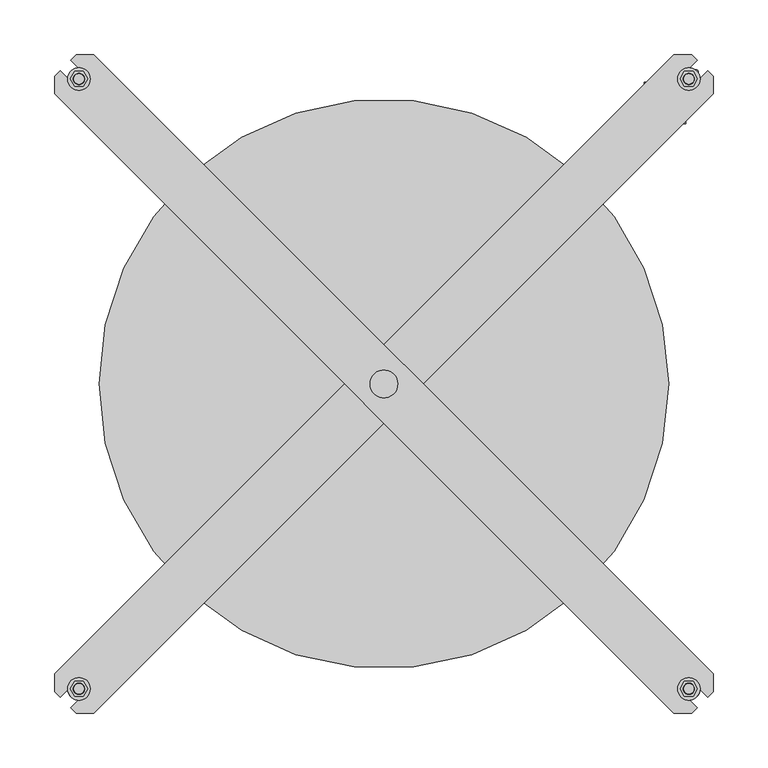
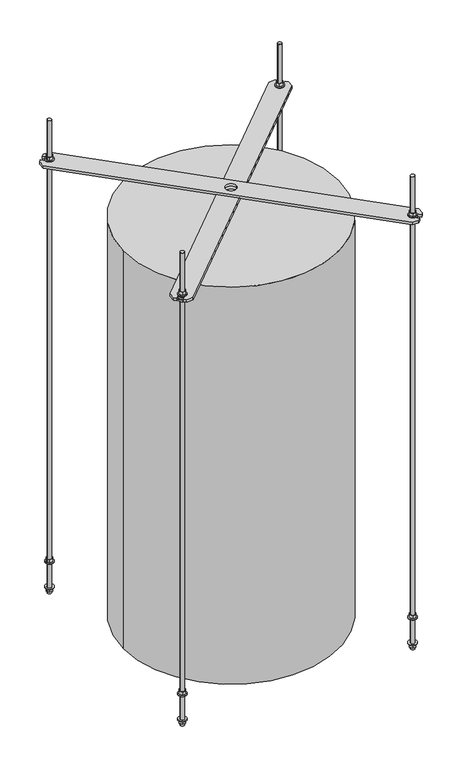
"""IFC4 building model written with IfcOpenShell, lengths in millimetres: proxy geometry."""

from ifc_helpers import new_model, si_unit, point, frame, frame_2d, origin, origin_2d, place, context, project, spatial, polyline, circle_curve, trimmed, segment, composite_curve, outline, extrude, source, transform, mapped, element, save
from ifc_brep_helpers import plane_surface, cylinder_surface, revolved_surface, advanced_brep


def generic_models_c016bd41(model_context):
    return source(origin(), model_context, "Body", "SolidModel", [
        extrude(outline(composite_curve([segment(trimmed(circle_curve(frame_2d((278.914225, 278.914225)), 10.31875), [point((268.595475, 278.914225))], [point((289.232975, 278.914225))], False, "CARTESIAN"), True, "CONTINUOUS"), segment(trimmed(circle_curve(frame_2d((278.914225, 278.914225)), 10.31875), [point((289.232975, 278.914225))], [point((268.595475, 278.914225))], False, "CARTESIAN"), True, "CONTINUOUS")], self_intersect=False), holes=[composite_curve([segment(trimmed(circle_curve(frame_2d((278.914225, 278.914225)), 5.159375), [point((273.75485, 278.914225))], [point((284.0736, 278.914225))], True, "CARTESIAN"), True, "CONTINUOUS"), segment(trimmed(circle_curve(frame_2d((278.914225, 278.914225)), 5.159375), [point((284.0736, 278.914225))], [point((273.75485, 278.914225))], True, "CARTESIAN"), True, "CONTINUOUS")], self_intersect=False)]), frame((0.0, 0.0, 1085.85), z_axis=(0.0, 0.0, 1.0), x_axis=(1.0, 0.0, 0.0)), (0.0, 0.0, 1.0), 1.5875),
        extrude(outline(polyline([(274.945475, 285.7883016), (282.882975, 285.7883016), (286.851725, 278.914225), (282.882975, 272.0401484), (274.945475, 272.0401484), (270.976725, 278.914225), (274.945475, 285.7883016)]), holes=[composite_curve([segment(trimmed(circle_curve(frame_2d((278.914225, 278.914225)), 5.159375), [point((273.75485, 278.914225))], [point((284.0736, 278.914225))], True, "CARTESIAN"), True, "CONTINUOUS"), segment(trimmed(circle_curve(frame_2d((278.914225, 278.914225)), 5.159375), [point((284.0736, 278.914225))], [point((273.75485, 278.914225))], True, "CARTESIAN"), True, "CONTINUOUS")], self_intersect=False)]), frame((0.0, 0.0, 1087.4375), z_axis=(0.0, 0.0, 1.0), x_axis=(1.0, 0.0, 0.0)), (0.0, 0.0, 1.0), 7.9375),
        extrude(outline(composite_curve([segment(trimmed(circle_curve(frame_2d((-278.914225, 278.914225)), 10.31875), [point((-289.232975, 278.914225))], [point((-268.595475, 278.914225))], False, "CARTESIAN"), True, "CONTINUOUS"), segment(trimmed(circle_curve(frame_2d((-278.914225, 278.914225)), 10.31875), [point((-268.595475, 278.914225))], [point((-289.232975, 278.914225))], False, "CARTESIAN"), True, "CONTINUOUS")], self_intersect=False), holes=[composite_curve([segment(trimmed(circle_curve(frame_2d((-278.914225, 278.914225)), 5.159375), [point((-284.0736, 278.914225))], [point((-273.75485, 278.914225))], True, "CARTESIAN"), True, "CONTINUOUS"), segment(trimmed(circle_curve(frame_2d((-278.914225, 278.914225)), 5.159375), [point((-273.75485, 278.914225))], [point((-284.0736, 278.914225))], True, "CARTESIAN"), True, "CONTINUOUS")], self_intersect=False)]), frame((0.0, 0.0, 1092.2), z_axis=(0.0, 0.0, 1.0), x_axis=(1.0, 0.0, 0.0)), (0.0, 0.0, 1.0), 1.5875),
        extrude(outline(polyline([(-282.882975, 285.7883016), (-274.945475, 285.7883016), (-270.976725, 278.914225), (-274.945475, 272.0401484), (-282.882975, 272.0401484), (-286.851725, 278.914225), (-282.882975, 285.7883016)]), holes=[composite_curve([segment(trimmed(circle_curve(frame_2d((-278.914225, 278.914225)), 5.159375), [point((-284.0736, 278.914225))], [point((-273.75485, 278.914225))], True, "CARTESIAN"), True, "CONTINUOUS"), segment(trimmed(circle_curve(frame_2d((-278.914225, 278.914225)), 5.159375), [point((-273.75485, 278.914225))], [point((-284.0736, 278.914225))], True, "CARTESIAN"), True, "CONTINUOUS")], self_intersect=False)]), frame((0.0, 0.0, 1093.7875), z_axis=(0.0, 0.0, 1.0), x_axis=(1.0, 0.0, 0.0)), (0.0, 0.0, 1.0), 7.9375),
        extrude(outline(composite_curve([segment(trimmed(circle_curve(frame_2d((278.914225, 278.914225)), 10.31875), [point((268.595475, 278.914225))], [point((289.232975, 278.914225))], False, "CARTESIAN"), True, "CONTINUOUS"), segment(trimmed(circle_curve(frame_2d((278.914225, 278.914225)), 10.31875), [point((289.232975, 278.914225))], [point((268.595475, 278.914225))], False, "CARTESIAN"), True, "CONTINUOUS")], self_intersect=False), holes=[composite_curve([segment(trimmed(circle_curve(frame_2d((278.914225, 278.914225)), 5.159375), [point((273.75485, 278.914225))], [point((284.0736, 278.914225))], True, "CARTESIAN"), True, "CONTINUOUS"), segment(trimmed(circle_curve(frame_2d((278.914225, 278.914225)), 5.159375), [point((284.0736, 278.914225))], [point((273.75485, 278.914225))], True, "CARTESIAN"), True, "CONTINUOUS")], self_intersect=False)]), frame((0.0, 0.0, 1077.9125), z_axis=(0.0, 0.0, 1.0), x_axis=(1.0, 0.0, 0.0)), (0.0, 0.0, 1.0), 1.5875),
        extrude(outline(polyline([(274.945475, 285.7883016), (282.882975, 285.7883016), (286.851725, 278.914225), (282.882975, 272.0401484), (274.945475, 272.0401484), (270.976725, 278.914225), (274.945475, 285.7883016)]), holes=[composite_curve([segment(trimmed(circle_curve(frame_2d((278.914225, 278.914225)), 5.159375), [point((273.75485, 278.914225))], [point((284.0736, 278.914225))], True, "CARTESIAN"), True, "CONTINUOUS"), segment(trimmed(circle_curve(frame_2d((278.914225, 278.914225)), 5.159375), [point((284.0736, 278.914225))], [point((273.75485, 278.914225))], True, "CARTESIAN"), True, "CONTINUOUS")], self_intersect=False)]), frame((0.0, 0.0, 1069.975), z_axis=(0.0, 0.0, 1.0), x_axis=(1.0, 0.0, 0.0)), (0.0, 0.0, 1.0), 7.9375),
        extrude(outline(composite_curve([segment(trimmed(circle_curve(frame_2d((-278.914225, 278.914225)), 10.31875), [point((-289.232975, 278.914225))], [point((-268.595475, 278.914225))], False, "CARTESIAN"), True, "CONTINUOUS"), segment(trimmed(circle_curve(frame_2d((-278.914225, 278.914225)), 10.31875), [point((-268.595475, 278.914225))], [point((-289.232975, 278.914225))], False, "CARTESIAN"), True, "CONTINUOUS")], self_intersect=False), holes=[composite_curve([segment(trimmed(circle_curve(frame_2d((-278.914225, 278.914225)), 5.159375), [point((-284.0736, 278.914225))], [point((-273.75485, 278.914225))], True, "CARTESIAN"), True, "CONTINUOUS"), segment(trimmed(circle_curve(frame_2d((-278.914225, 278.914225)), 5.159375), [point((-273.75485, 278.914225))], [point((-284.0736, 278.914225))], True, "CARTESIAN"), True, "CONTINUOUS")], self_intersect=False)]), frame((0.0, 0.0, 1084.2625), z_axis=(0.0, 0.0, 1.0), x_axis=(1.0, 0.0, 0.0)), (0.0, 0.0, 1.0), 1.5875),
        extrude(outline(polyline([(-282.882975, 285.7883016), (-274.945475, 285.7883016), (-270.976725, 278.914225), (-274.945475, 272.0401484), (-282.882975, 272.0401484), (-286.851725, 278.914225), (-282.882975, 285.7883016)]), holes=[composite_curve([segment(trimmed(circle_curve(frame_2d((-278.914225, 278.914225)), 5.159375), [point((-284.0736, 278.914225))], [point((-273.75485, 278.914225))], True, "CARTESIAN"), True, "CONTINUOUS"), segment(trimmed(circle_curve(frame_2d((-278.914225, 278.914225)), 5.159375), [point((-273.75485, 278.914225))], [point((-284.0736, 278.914225))], True, "CARTESIAN"), True, "CONTINUOUS")], self_intersect=False)]), frame((0.0, 0.0, 1076.325), z_axis=(0.0, 0.0, 1.0), x_axis=(1.0, 0.0, 0.0)), (0.0, 0.0, 1.0), 7.9375),
        extrude(outline(composite_curve([segment(trimmed(circle_curve(frame_2d((278.914225, -278.914225)), 10.31875), [point((268.595475, -278.914225))], [point((289.232975, -278.914225))], False, "CARTESIAN"), True, "CONTINUOUS"), segment(trimmed(circle_curve(frame_2d((278.914225, -278.914225)), 10.31875), [point((289.232975, -278.914225))], [point((268.595475, -278.914225))], False, "CARTESIAN"), True, "CONTINUOUS")], self_intersect=False), holes=[composite_curve([segment(trimmed(circle_curve(frame_2d((278.914225, -278.914225)), 5.159375), [point((273.75485, -278.914225))], [point((284.0736, -278.914225))], True, "CARTESIAN"), True, "CONTINUOUS"), segment(trimmed(circle_curve(frame_2d((278.914225, -278.914225)), 5.159375), [point((284.0736, -278.914225))], [point((273.75485, -278.914225))], True, "CARTESIAN"), True, "CONTINUOUS")], self_intersect=False)]), frame((0.0, 0.0, 1084.2625), z_axis=(0.0, 0.0, 1.0), x_axis=(1.0, 0.0, 0.0)), (0.0, 0.0, 1.0), 1.5875),
        extrude(outline(polyline([(274.945475, -272.0401484), (282.882975, -272.0401484), (286.851725, -278.914225), (282.882975, -285.7883016), (274.945475, -285.7883016), (270.976725, -278.914225), (274.945475, -272.0401484)]), holes=[composite_curve([segment(trimmed(circle_curve(frame_2d((278.914225, -278.914225)), 5.159375), [point((273.75485, -278.914225))], [point((284.0736, -278.914225))], True, "CARTESIAN"), True, "CONTINUOUS"), segment(trimmed(circle_curve(frame_2d((278.914225, -278.914225)), 5.159375), [point((284.0736, -278.914225))], [point((273.75485, -278.914225))], True, "CARTESIAN"), True, "CONTINUOUS")], self_intersect=False)]), frame((0.0, 0.0, 1076.325), z_axis=(0.0, 0.0, 1.0), x_axis=(1.0, 0.0, 0.0)), (0.0, 0.0, 1.0), 7.9375),
        extrude(outline(composite_curve([segment(trimmed(circle_curve(frame_2d((-278.914225, -278.914225)), 10.31875), [point((-289.232975, -278.914225))], [point((-268.595475, -278.914225))], False, "CARTESIAN"), True, "CONTINUOUS"), segment(trimmed(circle_curve(frame_2d((-278.914225, -278.914225)), 10.31875), [point((-268.595475, -278.914225))], [point((-289.232975, -278.914225))], False, "CARTESIAN"), True, "CONTINUOUS")], self_intersect=False), holes=[composite_curve([segment(trimmed(circle_curve(frame_2d((-278.914225, -278.914225)), 5.159375), [point((-284.0736, -278.914225))], [point((-273.75485, -278.914225))], True, "CARTESIAN"), True, "CONTINUOUS"), segment(trimmed(circle_curve(frame_2d((-278.914225, -278.914225)), 5.159375), [point((-273.75485, -278.914225))], [point((-284.0736, -278.914225))], True, "CARTESIAN"), True, "CONTINUOUS")], self_intersect=False)]), frame((0.0, 0.0, 1077.9125), z_axis=(0.0, 0.0, 1.0), x_axis=(1.0, 0.0, 0.0)), (0.0, 0.0, 1.0), 1.5875),
        extrude(outline(polyline([(-282.882975, -272.0401484), (-274.945475, -272.0401484), (-270.976725, -278.914225), (-274.945475, -285.7883016), (-282.882975, -285.7883016), (-286.851725, -278.914225), (-282.882975, -272.0401484)]), holes=[composite_curve([segment(trimmed(circle_curve(frame_2d((-278.914225, -278.914225)), 5.159375), [point((-284.0736, -278.914225))], [point((-273.75485, -278.914225))], True, "CARTESIAN"), True, "CONTINUOUS"), segment(trimmed(circle_curve(frame_2d((-278.914225, -278.914225)), 5.159375), [point((-273.75485, -278.914225))], [point((-284.0736, -278.914225))], True, "CARTESIAN"), True, "CONTINUOUS")], self_intersect=False)]), frame((0.0, 0.0, 1069.975), z_axis=(0.0, 0.0, 1.0), x_axis=(1.0, 0.0, 0.0)), (0.0, 0.0, 1.0), 7.9375),
        extrude(outline(composite_curve([segment(trimmed(circle_curve(frame_2d((278.914225, -278.914225)), 10.31875), [point((268.595475, -278.914225))], [point((289.232975, -278.914225))], False, "CARTESIAN"), True, "CONTINUOUS"), segment(trimmed(circle_curve(frame_2d((278.914225, -278.914225)), 10.31875), [point((289.232975, -278.914225))], [point((268.595475, -278.914225))], False, "CARTESIAN"), True, "CONTINUOUS")], self_intersect=False), holes=[composite_curve([segment(trimmed(circle_curve(frame_2d((278.914225, -278.914225)), 5.159375), [point((273.75485, -278.914225))], [point((284.0736, -278.914225))], True, "CARTESIAN"), True, "CONTINUOUS"), segment(trimmed(circle_curve(frame_2d((278.914225, -278.914225)), 5.159375), [point((284.0736, -278.914225))], [point((273.75485, -278.914225))], True, "CARTESIAN"), True, "CONTINUOUS")], self_intersect=False)]), frame((0.0, 0.0, 1092.2), z_axis=(0.0, 0.0, 1.0), x_axis=(1.0, 0.0, 0.0)), (0.0, 0.0, 1.0), 1.5875),
        extrude(outline(polyline([(274.945475, -272.0401484), (282.882975, -272.0401484), (286.851725, -278.914225), (282.882975, -285.7883016), (274.945475, -285.7883016), (270.976725, -278.914225), (274.945475, -272.0401484)]), holes=[composite_curve([segment(trimmed(circle_curve(frame_2d((278.914225, -278.914225)), 5.159375), [point((273.75485, -278.914225))], [point((284.0736, -278.914225))], True, "CARTESIAN"), True, "CONTINUOUS"), segment(trimmed(circle_curve(frame_2d((278.914225, -278.914225)), 5.159375), [point((284.0736, -278.914225))], [point((273.75485, -278.914225))], True, "CARTESIAN"), True, "CONTINUOUS")], self_intersect=False)]), frame((0.0, 0.0, 1093.7875), z_axis=(0.0, 0.0, 1.0), x_axis=(1.0, 0.0, 0.0)), (0.0, 0.0, 1.0), 7.9375),
        extrude(outline(composite_curve([segment(trimmed(circle_curve(frame_2d((-278.914225, -278.914225)), 10.31875), [point((-289.232975, -278.914225))], [point((-268.595475, -278.914225))], False, "CARTESIAN"), True, "CONTINUOUS"), segment(trimmed(circle_curve(frame_2d((-278.914225, -278.914225)), 10.31875), [point((-268.595475, -278.914225))], [point((-289.232975, -278.914225))], False, "CARTESIAN"), True, "CONTINUOUS")], self_intersect=False), holes=[composite_curve([segment(trimmed(circle_curve(frame_2d((-278.914225, -278.914225)), 5.159375), [point((-284.0736, -278.914225))], [point((-273.75485, -278.914225))], True, "CARTESIAN"), True, "CONTINUOUS"), segment(trimmed(circle_curve(frame_2d((-278.914225, -278.914225)), 5.159375), [point((-273.75485, -278.914225))], [point((-284.0736, -278.914225))], True, "CARTESIAN"), True, "CONTINUOUS")], self_intersect=False)]), frame((0.0, 0.0, 1085.85), z_axis=(0.0, 0.0, 1.0), x_axis=(1.0, 0.0, 0.0)), (0.0, 0.0, 1.0), 1.5875),
        extrude(outline(polyline([(-282.882975, -272.0401484), (-274.945475, -272.0401484), (-270.976725, -278.914225), (-274.945475, -285.7883016), (-282.882975, -285.7883016), (-286.851725, -278.914225), (-282.882975, -272.0401484)]), holes=[composite_curve([segment(trimmed(circle_curve(frame_2d((-278.914225, -278.914225)), 5.159375), [point((-284.0736, -278.914225))], [point((-273.75485, -278.914225))], True, "CARTESIAN"), True, "CONTINUOUS"), segment(trimmed(circle_curve(frame_2d((-278.914225, -278.914225)), 5.159375), [point((-273.75485, -278.914225))], [point((-284.0736, -278.914225))], True, "CARTESIAN"), True, "CONTINUOUS")], self_intersect=False)]), frame((0.0, 0.0, 1087.4375), z_axis=(0.0, 0.0, 1.0), x_axis=(1.0, 0.0, 0.0)), (0.0, 0.0, 1.0), 7.9375),
        extrude(outline(composite_curve([segment(trimmed(circle_curve(frame_2d((-278.914225, 278.914225)), 10.31875), [point((-289.232975, 278.914225))], [point((-268.595475, 278.914225))], False, "CARTESIAN"), True, "CONTINUOUS"), segment(trimmed(circle_curve(frame_2d((-278.914225, 278.914225)), 10.31875), [point((-268.595475, 278.914225))], [point((-289.232975, 278.914225))], False, "CARTESIAN"), True, "CONTINUOUS")], self_intersect=False), holes=[composite_curve([segment(trimmed(circle_curve(frame_2d((-278.914225, 278.914225)), 5.159375), [point((-284.0736, 278.914225))], [point((-273.75485, 278.914225))], True, "CARTESIAN"), True, "CONTINUOUS"), segment(trimmed(circle_curve(frame_2d((-278.914225, 278.914225)), 5.159375), [point((-273.75485, 278.914225))], [point((-284.0736, 278.914225))], True, "CARTESIAN"), True, "CONTINUOUS")], self_intersect=False)]), frame((0.0, 0.0, -1.5875), z_axis=(0.0, 0.0, 1.0), x_axis=(1.0, 0.0, 0.0)), (0.0, 0.0, 1.0), 1.5875),
        extrude(outline(polyline([(-282.882975, 285.7883016), (-274.945475, 285.7883016), (-270.976725, 278.914225), (-274.945475, 272.0401484), (-282.882975, 272.0401484), (-286.851725, 278.914225), (-282.882975, 285.7883016)]), holes=[composite_curve([segment(trimmed(circle_curve(frame_2d((-278.914225, 278.914225)), 5.159375), [point((-284.0736, 278.914225))], [point((-273.75485, 278.914225))], True, "CARTESIAN"), True, "CONTINUOUS"), segment(trimmed(circle_curve(frame_2d((-278.914225, 278.914225)), 5.159375), [point((-273.75485, 278.914225))], [point((-284.0736, 278.914225))], True, "CARTESIAN"), True, "CONTINUOUS")], self_intersect=False)]), frame((0.0, 0.0, -9.525), z_axis=(0.0, 0.0, 1.0), x_axis=(1.0, 0.0, 0.0)), (0.0, 0.0, 1.0), 7.9375),
        extrude(outline(composite_curve([segment(trimmed(circle_curve(frame_2d((278.914225, 278.914225)), 10.31875), [point((268.595475, 278.914225))], [point((289.232975, 278.914225))], False, "CARTESIAN"), True, "CONTINUOUS"), segment(trimmed(circle_curve(frame_2d((278.914225, 278.914225)), 10.31875), [point((289.232975, 278.914225))], [point((268.595475, 278.914225))], False, "CARTESIAN"), True, "CONTINUOUS")], self_intersect=False), holes=[composite_curve([segment(trimmed(circle_curve(frame_2d((278.914225, 278.914225)), 5.159375), [point((273.75485, 278.914225))], [point((284.0736, 278.914225))], True, "CARTESIAN"), True, "CONTINUOUS"), segment(trimmed(circle_curve(frame_2d((278.914225, 278.914225)), 5.159375), [point((284.0736, 278.914225))], [point((273.75485, 278.914225))], True, "CARTESIAN"), True, "CONTINUOUS")], self_intersect=False)]), frame((0.0, 0.0, -1.5875), z_axis=(0.0, 0.0, 1.0), x_axis=(1.0, 0.0, 0.0)), (0.0, 0.0, 1.0), 1.5875),
        extrude(outline(polyline([(274.945475, 285.7883016), (282.882975, 285.7883016), (286.851725, 278.914225), (282.882975, 272.0401484), (274.945475, 272.0401484), (270.976725, 278.914225), (274.945475, 285.7883016)]), holes=[composite_curve([segment(trimmed(circle_curve(frame_2d((278.914225, 278.914225)), 5.159375), [point((273.75485, 278.914225))], [point((284.0736, 278.914225))], True, "CARTESIAN"), True, "CONTINUOUS"), segment(trimmed(circle_curve(frame_2d((278.914225, 278.914225)), 5.159375), [point((284.0736, 278.914225))], [point((273.75485, 278.914225))], True, "CARTESIAN"), True, "CONTINUOUS")], self_intersect=False)]), frame((0.0, 0.0, -9.525), z_axis=(0.0, 0.0, 1.0), x_axis=(1.0, 0.0, 0.0)), (0.0, 0.0, 1.0), 7.9375),
        extrude(outline(composite_curve([segment(trimmed(circle_curve(frame_2d((-278.914225, 278.914225)), 10.31875), [point((-289.232975, 278.914225))], [point((-268.595475, 278.914225))], False, "CARTESIAN"), True, "CONTINUOUS"), segment(trimmed(circle_curve(frame_2d((-278.914225, 278.914225)), 10.31875), [point((-268.595475, 278.914225))], [point((-289.232975, 278.914225))], False, "CARTESIAN"), True, "CONTINUOUS")], self_intersect=False), holes=[composite_curve([segment(trimmed(circle_curve(frame_2d((-278.914225, 278.914225)), 5.159375), [point((-284.0736, 278.914225))], [point((-273.75485, 278.914225))], True, "CARTESIAN"), True, "CONTINUOUS"), segment(trimmed(circle_curve(frame_2d((-278.914225, 278.914225)), 5.159375), [point((-273.75485, 278.914225))], [point((-284.0736, 278.914225))], True, "CARTESIAN"), True, "CONTINUOUS")], self_intersect=False)]), frame((0.0, 0.0, 63.5), z_axis=(0.0, 0.0, 1.0), x_axis=(1.0, 0.0, 0.0)), (0.0, 0.0, 1.0), 1.5875),
        extrude(outline(polyline([(-282.882975, 285.7883016), (-274.945475, 285.7883016), (-270.976725, 278.914225), (-274.945475, 272.0401484), (-282.882975, 272.0401484), (-286.851725, 278.914225), (-282.882975, 285.7883016)]), holes=[composite_curve([segment(trimmed(circle_curve(frame_2d((-278.914225, 278.914225)), 5.159375), [point((-284.0736, 278.914225))], [point((-273.75485, 278.914225))], True, "CARTESIAN"), True, "CONTINUOUS"), segment(trimmed(circle_curve(frame_2d((-278.914225, 278.914225)), 5.159375), [point((-273.75485, 278.914225))], [point((-284.0736, 278.914225))], True, "CARTESIAN"), True, "CONTINUOUS")], self_intersect=False)]), frame((0.0, 0.0, 65.0875), z_axis=(0.0, 0.0, 1.0), x_axis=(1.0, 0.0, 0.0)), (0.0, 0.0, 1.0), 7.9375),
        extrude(outline(composite_curve([segment(trimmed(circle_curve(frame_2d((278.914225, 278.914225)), 10.31875), [point((268.595475, 278.914225))], [point((289.232975, 278.914225))], False, "CARTESIAN"), True, "CONTINUOUS"), segment(trimmed(circle_curve(frame_2d((278.914225, 278.914225)), 10.31875), [point((289.232975, 278.914225))], [point((268.595475, 278.914225))], False, "CARTESIAN"), True, "CONTINUOUS")], self_intersect=False), holes=[composite_curve([segment(trimmed(circle_curve(frame_2d((278.914225, 278.914225)), 5.159375), [point((273.75485, 278.914225))], [point((284.0736, 278.914225))], True, "CARTESIAN"), True, "CONTINUOUS"), segment(trimmed(circle_curve(frame_2d((278.914225, 278.914225)), 5.159375), [point((284.0736, 278.914225))], [point((273.75485, 278.914225))], True, "CARTESIAN"), True, "CONTINUOUS")], self_intersect=False)]), frame((0.0, 0.0, 63.5), z_axis=(0.0, 0.0, 1.0), x_axis=(1.0, 0.0, 0.0)), (0.0, 0.0, 1.0), 1.5875),
        extrude(outline(polyline([(274.945475, 285.7883016), (282.882975, 285.7883016), (286.851725, 278.914225), (282.882975, 272.0401484), (274.945475, 272.0401484), (270.976725, 278.914225), (274.945475, 285.7883016)]), holes=[composite_curve([segment(trimmed(circle_curve(frame_2d((278.914225, 278.914225)), 5.159375), [point((273.75485, 278.914225))], [point((284.0736, 278.914225))], True, "CARTESIAN"), True, "CONTINUOUS"), segment(trimmed(circle_curve(frame_2d((278.914225, 278.914225)), 5.159375), [point((284.0736, 278.914225))], [point((273.75485, 278.914225))], True, "CARTESIAN"), True, "CONTINUOUS")], self_intersect=False)]), frame((0.0, 0.0, 65.0875), z_axis=(0.0, 0.0, 1.0), x_axis=(1.0, 0.0, 0.0)), (0.0, 0.0, 1.0), 7.9375),
        extrude(outline(composite_curve([segment(trimmed(circle_curve(frame_2d((278.914225, -278.914225)), 10.31875), [point((268.595475, -278.914225))], [point((289.232975, -278.914225))], False, "CARTESIAN"), True, "CONTINUOUS"), segment(trimmed(circle_curve(frame_2d((278.914225, -278.914225)), 10.31875), [point((289.232975, -278.914225))], [point((268.595475, -278.914225))], False, "CARTESIAN"), True, "CONTINUOUS")], self_intersect=False), holes=[composite_curve([segment(trimmed(circle_curve(frame_2d((278.914225, -278.914225)), 5.159375), [point((273.75485, -278.914225))], [point((284.0736, -278.914225))], True, "CARTESIAN"), True, "CONTINUOUS"), segment(trimmed(circle_curve(frame_2d((278.914225, -278.914225)), 5.159375), [point((284.0736, -278.914225))], [point((273.75485, -278.914225))], True, "CARTESIAN"), True, "CONTINUOUS")], self_intersect=False)]), frame((0.0, 0.0, -1.5875), z_axis=(0.0, 0.0, 1.0), x_axis=(1.0, 0.0, 0.0)), (0.0, 0.0, 1.0), 1.5875),
        extrude(outline(polyline([(274.945475, -272.0401484), (282.882975, -272.0401484), (286.851725, -278.914225), (282.882975, -285.7883016), (274.945475, -285.7883016), (270.976725, -278.914225), (274.945475, -272.0401484)]), holes=[composite_curve([segment(trimmed(circle_curve(frame_2d((278.914225, -278.914225)), 5.159375), [point((273.75485, -278.914225))], [point((284.0736, -278.914225))], True, "CARTESIAN"), True, "CONTINUOUS"), segment(trimmed(circle_curve(frame_2d((278.914225, -278.914225)), 5.159375), [point((284.0736, -278.914225))], [point((273.75485, -278.914225))], True, "CARTESIAN"), True, "CONTINUOUS")], self_intersect=False)]), frame((0.0, 0.0, -9.525), z_axis=(0.0, 0.0, 1.0), x_axis=(1.0, 0.0, 0.0)), (0.0, 0.0, 1.0), 7.9375),
        extrude(outline(composite_curve([segment(trimmed(circle_curve(frame_2d((278.914225, -278.914225)), 10.31875), [point((268.595475, -278.914225))], [point((289.232975, -278.914225))], False, "CARTESIAN"), True, "CONTINUOUS"), segment(trimmed(circle_curve(frame_2d((278.914225, -278.914225)), 10.31875), [point((289.232975, -278.914225))], [point((268.595475, -278.914225))], False, "CARTESIAN"), True, "CONTINUOUS")], self_intersect=False), holes=[composite_curve([segment(trimmed(circle_curve(frame_2d((278.914225, -278.914225)), 5.159375), [point((273.75485, -278.914225))], [point((284.0736, -278.914225))], True, "CARTESIAN"), True, "CONTINUOUS"), segment(trimmed(circle_curve(frame_2d((278.914225, -278.914225)), 5.159375), [point((284.0736, -278.914225))], [point((273.75485, -278.914225))], True, "CARTESIAN"), True, "CONTINUOUS")], self_intersect=False)]), frame((0.0, 0.0, 63.5), z_axis=(0.0, 0.0, 1.0), x_axis=(1.0, 0.0, 0.0)), (0.0, 0.0, 1.0), 1.5875),
        extrude(outline(polyline([(274.945475, -272.0401484), (282.882975, -272.0401484), (286.851725, -278.914225), (282.882975, -285.7883016), (274.945475, -285.7883016), (270.976725, -278.914225), (274.945475, -272.0401484)]), holes=[composite_curve([segment(trimmed(circle_curve(frame_2d((278.914225, -278.914225)), 5.159375), [point((273.75485, -278.914225))], [point((284.0736, -278.914225))], True, "CARTESIAN"), True, "CONTINUOUS"), segment(trimmed(circle_curve(frame_2d((278.914225, -278.914225)), 5.159375), [point((284.0736, -278.914225))], [point((273.75485, -278.914225))], True, "CARTESIAN"), True, "CONTINUOUS")], self_intersect=False)]), frame((0.0, 0.0, 65.0875), z_axis=(0.0, 0.0, 1.0), x_axis=(1.0, 0.0, 0.0)), (0.0, 0.0, 1.0), 7.9375),
        extrude(outline(composite_curve([segment(trimmed(circle_curve(frame_2d((-278.914225, -278.914225)), 10.31875), [point((-289.232975, -278.914225))], [point((-268.595475, -278.914225))], False, "CARTESIAN"), True, "CONTINUOUS"), segment(trimmed(circle_curve(frame_2d((-278.914225, -278.914225)), 10.31875), [point((-268.595475, -278.914225))], [point((-289.232975, -278.914225))], False, "CARTESIAN"), True, "CONTINUOUS")], self_intersect=False), holes=[composite_curve([segment(trimmed(circle_curve(frame_2d((-278.914225, -278.914225)), 5.159375), [point((-284.0736, -278.914225))], [point((-273.75485, -278.914225))], True, "CARTESIAN"), True, "CONTINUOUS"), segment(trimmed(circle_curve(frame_2d((-278.914225, -278.914225)), 5.159375), [point((-273.75485, -278.914225))], [point((-284.0736, -278.914225))], True, "CARTESIAN"), True, "CONTINUOUS")], self_intersect=False)]), frame((0.0, 0.0, 63.5), z_axis=(0.0, 0.0, 1.0), x_axis=(1.0, 0.0, 0.0)), (0.0, 0.0, 1.0), 1.5875),
        extrude(outline(polyline([(-282.882975, -272.0401484), (-274.945475, -272.0401484), (-270.976725, -278.914225), (-274.945475, -285.7883016), (-282.882975, -285.7883016), (-286.851725, -278.914225), (-282.882975, -272.0401484)]), holes=[composite_curve([segment(trimmed(circle_curve(frame_2d((-278.914225, -278.914225)), 5.159375), [point((-284.0736, -278.914225))], [point((-273.75485, -278.914225))], True, "CARTESIAN"), True, "CONTINUOUS"), segment(trimmed(circle_curve(frame_2d((-278.914225, -278.914225)), 5.159375), [point((-273.75485, -278.914225))], [point((-284.0736, -278.914225))], True, "CARTESIAN"), True, "CONTINUOUS")], self_intersect=False)]), frame((0.0, 0.0, 65.0875), z_axis=(0.0, 0.0, 1.0), x_axis=(1.0, 0.0, 0.0)), (0.0, 0.0, 1.0), 7.9375),
        extrude(outline(composite_curve([segment(trimmed(circle_curve(frame_2d((-278.914225, -278.914225)), 10.31875), [point((-289.232975, -278.914225))], [point((-268.595475, -278.914225))], False, "CARTESIAN"), True, "CONTINUOUS"), segment(trimmed(circle_curve(frame_2d((-278.914225, -278.914225)), 10.31875), [point((-268.595475, -278.914225))], [point((-289.232975, -278.914225))], False, "CARTESIAN"), True, "CONTINUOUS")], self_intersect=False), holes=[composite_curve([segment(trimmed(circle_curve(frame_2d((-278.914225, -278.914225)), 5.159375), [point((-284.0736, -278.914225))], [point((-273.75485, -278.914225))], True, "CARTESIAN"), True, "CONTINUOUS"), segment(trimmed(circle_curve(frame_2d((-278.914225, -278.914225)), 5.159375), [point((-273.75485, -278.914225))], [point((-284.0736, -278.914225))], True, "CARTESIAN"), True, "CONTINUOUS")], self_intersect=False)]), frame((0.0, 0.0, -1.5875), z_axis=(0.0, 0.0, 1.0), x_axis=(1.0, 0.0, 0.0)), (0.0, 0.0, 1.0), 1.5875),
        extrude(outline(polyline([(-282.882975, -272.0401484), (-274.945475, -272.0401484), (-270.976725, -278.914225), (-274.945475, -285.7883016), (-282.882975, -285.7883016), (-286.851725, -278.914225), (-282.882975, -272.0401484)]), holes=[composite_curve([segment(trimmed(circle_curve(frame_2d((-278.914225, -278.914225)), 5.159375), [point((-284.0736, -278.914225))], [point((-273.75485, -278.914225))], True, "CARTESIAN"), True, "CONTINUOUS"), segment(trimmed(circle_curve(frame_2d((-278.914225, -278.914225)), 5.159375), [point((-273.75485, -278.914225))], [point((-284.0736, -278.914225))], True, "CARTESIAN"), True, "CONTINUOUS")], self_intersect=False)]), frame((0.0, 0.0, -9.525), z_axis=(0.0, 0.0, 1.0), x_axis=(1.0, 0.0, 0.0)), (0.0, 0.0, 1.0), 7.9375),
        extrude(outline(polyline([(-301.139225, -265.2390359), (265.2390353, 301.139225), (281.4548909, 301.139225), (286.4582039, 296.135912), (269.6202237, 279.2979317), (279.2979317, 269.6202237), (296.135912, 286.4582039), (301.139225, 281.4548909), (301.139225, 265.2390359), (-265.2390353, -301.139225), (-281.4548909, -301.139225), (-286.4582039, -296.135912), (-269.6202237, -279.2979317), (-279.2979317, -269.6202237), (-296.135912, -286.4582039), (-301.139225, -281.4548909), (-301.139225, -265.2390359)]), holes=[composite_curve([segment(trimmed(circle_curve(origin_2d(), 12.7), [point((12.7, 0.0))], [point((-12.7, 0.0))], True, "CARTESIAN"), True, "CONTINUOUS"), segment(trimmed(circle_curve(origin_2d(), 12.7), [point((-12.7, 0.0))], [point((12.7, 0.0))], True, "CARTESIAN"), True, "CONTINUOUS")], self_intersect=False)]), frame((0.0, 0.0, 1079.5), z_axis=(0.0, 0.0, 1.0), x_axis=(1.0, 0.0, 0.0)), (0.0, 0.0, 1.0), 6.35),
        extrude(outline(polyline([(301.139225, -265.2390359), (301.139225, -281.4548909), (296.135912, -286.4582039), (279.2979317, -269.6202237), (269.6202237, -279.2979317), (286.4582039, -296.135912), (281.4548909, -301.139225), (265.2390353, -301.139225), (-301.139225, 265.2390359), (-301.139225, 281.4548909), (-296.135912, 286.4582039), (-279.2979317, 269.6202237), (-269.6202237, 279.2979317), (-286.4582039, 296.135912), (-281.4548909, 301.139225), (-265.2390353, 301.139225), (301.139225, -265.2390359)]), holes=[composite_curve([segment(trimmed(circle_curve(origin_2d(), 12.7), [point((-12.7, 0.0))], [point((12.7, 0.0))], True, "CARTESIAN"), True, "CONTINUOUS"), segment(trimmed(circle_curve(origin_2d(), 12.7), [point((12.7, 0.0))], [point((-12.7, 0.0))], True, "CARTESIAN"), True, "CONTINUOUS")], self_intersect=False)]), frame((0.0, 0.0, 1085.85), z_axis=(0.0, 0.0, 1.0), x_axis=(1.0, 0.0, 0.0)), (0.0, 0.0, 1.0), 6.35),
        extrude(outline(composite_curve([segment(trimmed(circle_curve(origin_2d(), 260.35), [point((-260.35, 0.0))], [point((260.35, 0.0))], False, "CARTESIAN"), True, "CONTINUOUS"), segment(trimmed(circle_curve(origin_2d(), 260.35), [point((260.35, 0.0))], [point((-260.35, 0.0))], False, "CARTESIAN"), True, "CONTINUOUS")], self_intersect=False)), frame((0.0, 0.0, 3.175), z_axis=(0.0, 0.0, 1.0), x_axis=(1.0, 0.0, 0.0)), (0.0, 0.0, 1.0), 1016.0),
        extrude(outline(composite_curve([segment(trimmed(circle_curve(frame_2d((278.914225, 278.914225)), 4.7625), [point((274.151725, 278.914225))], [point((283.676725, 278.914225))], False, "CARTESIAN"), True, "CONTINUOUS"), segment(trimmed(circle_curve(frame_2d((278.914225, 278.914225)), 4.7625), [point((283.676725, 278.914225))], [point((274.151725, 278.914225))], False, "CARTESIAN"), True, "CONTINUOUS")], self_intersect=False)), frame((0.0, 0.0, -15.875), z_axis=(0.0, 0.0, 1.0), x_axis=(1.0, 0.0, 0.0)), (0.0, 0.0, 1.0), 1209.675),
        extrude(outline(composite_curve([segment(trimmed(circle_curve(frame_2d((-278.914225, 278.914225)), 4.7625), [point((-283.676725, 278.914225))], [point((-274.151725, 278.914225))], False, "CARTESIAN"), True, "CONTINUOUS"), segment(trimmed(circle_curve(frame_2d((-278.914225, 278.914225)), 4.7625), [point((-274.151725, 278.914225))], [point((-283.676725, 278.914225))], False, "CARTESIAN"), True, "CONTINUOUS")], self_intersect=False)), frame((0.0, 0.0, -15.875), z_axis=(0.0, 0.0, 1.0), x_axis=(1.0, 0.0, 0.0)), (0.0, 0.0, 1.0), 1209.675),
        extrude(outline(composite_curve([segment(trimmed(circle_curve(frame_2d((278.914225, -278.914225)), 4.7625), [point((274.151725, -278.914225))], [point((283.676725, -278.914225))], False, "CARTESIAN"), True, "CONTINUOUS"), segment(trimmed(circle_curve(frame_2d((278.914225, -278.914225)), 4.7625), [point((283.676725, -278.914225))], [point((274.151725, -278.914225))], False, "CARTESIAN"), True, "CONTINUOUS")], self_intersect=False)), frame((0.0, 0.0, -15.875), z_axis=(0.0, 0.0, 1.0), x_axis=(1.0, 0.0, 0.0)), (0.0, 0.0, 1.0), 1209.675),
        extrude(outline(composite_curve([segment(trimmed(circle_curve(frame_2d((-278.914225, -278.914225)), 4.7625), [point((-283.676725, -278.914225))], [point((-274.151725, -278.914225))], False, "CARTESIAN"), True, "CONTINUOUS"), segment(trimmed(circle_curve(frame_2d((-278.914225, -278.914225)), 4.7625), [point((-274.151725, -278.914225))], [point((-283.676725, -278.914225))], False, "CARTESIAN"), True, "CONTINUOUS")], self_intersect=False)), frame((0.0, 0.0, -15.875), z_axis=(0.0, 0.0, 1.0), x_axis=(1.0, 0.0, 0.0)), (0.0, 0.0, 1.0), 1209.675),
        advanced_brep(
        [(238.248825, 276.247225, 63.5), (238.248825, 274.240625, 63.5), (269.389225, 274.240625, 63.5), (272.157825, 277.009225, 63.5), (272.157825, 284.908625, 63.5), (272.919825, 285.670625, 63.5), (284.908625, 285.670625, 63.5), (285.670625, 284.908625, 63.5), (285.670625, 272.919825, 63.5), (284.908625, 272.157825, 63.5), (277.009225, 272.157825, 63.5), (274.240625, 269.389225, 63.5), (274.240625, 238.248825, 63.5), (276.247225, 238.248825, 63.5), (276.247225, 269.389225, 63.5), (277.009225, 270.151225, 63.5), (284.908625, 270.151225, 63.5), (287.677225, 272.919825, 63.5), (287.677225, 284.908625, 63.5), (284.908625, 287.677225, 63.5), (272.919825, 287.677225, 63.5), (270.151225, 284.908625, 63.5), (270.151225, 277.009225, 63.5), (269.389225, 276.247225, 63.5), (238.248825, 276.247225, 0.0), (269.389225, 276.247225, 0.0), (270.151225, 277.009225, 0.0), (270.151225, 284.908625, 0.0), (272.919825, 287.677225, 0.0), (284.908625, 287.677225, 0.0), (287.677225, 284.908625, 0.0), (287.677225, 272.919825, 0.0), (284.908625, 270.151225, 0.0), (277.009225, 270.151225, 0.0), (276.247225, 269.389225, 0.0), (276.247225, 238.248825, 0.0), (274.240625, 238.248825, 0.0), (274.240625, 269.389225, 0.0), (277.009225, 272.157825, 0.0), (284.908625, 272.157825, 0.0), (285.670625, 272.919825, 0.0), (285.670625, 284.908625, 0.0), (284.908625, 285.670625, 0.0), (272.919825, 285.670625, 0.0), (272.157825, 284.908625, 0.0), (272.157825, 277.009225, 0.0), (269.389225, 274.240625, 0.0), (238.248825, 274.240625, 0.0), (255.584325, 274.240625, 25.4), (248.446925, 274.240625, 25.4), (255.584325, 274.240625, 47.625), (248.446925, 274.240625, 47.625), (274.240625, 248.446925, 47.625), (274.240625, 255.584325, 47.625), (274.240625, 248.446925, 25.4), (274.240625, 255.584325, 25.4), (276.247225, 255.584325, 47.625), (276.247225, 248.446925, 47.625), (276.247225, 255.584325, 25.4), (276.247225, 248.446925, 25.4), (248.446925, 276.247225, 25.4), (255.584325, 276.247225, 25.4), (248.446925, 276.247225, 47.625), (255.584325, 276.247225, 47.625)],
        [
            (0, 1),
            (1, 2),
            (2, 3, circle_curve(frame((269.389225, 277.009225, 63.5), z_axis=(0.0, 0.0, 1.0), x_axis=(1.0, 0.0, 0.0)), 2.7686)),
            (3, 4),
            (4, 5, circle_curve(frame((272.919825, 284.908625, 63.5), z_axis=(0.0, 0.0, -1.0), x_axis=(1.0, 0.0, 0.0)), 0.762)),
            (5, 6),
            (6, 7, circle_curve(frame((284.908625, 284.908625, 63.5), z_axis=(0.0, 0.0, -1.0), x_axis=(1.0, 0.0, 0.0)), 0.762)),
            (7, 8),
            (8, 9, circle_curve(frame((284.908625, 272.919825, 63.5), z_axis=(0.0, 0.0, -1.0), x_axis=(1.0, 0.0, 0.0)), 0.762)),
            (9, 10),
            (10, 11, circle_curve(frame((277.009225, 269.389225, 63.5), z_axis=(0.0, 0.0, 1.0), x_axis=(1.0, 0.0, 0.0)), 2.7686)),
            (11, 12),
            (12, 13),
            (13, 14),
            (14, 15, circle_curve(frame((277.009225, 269.389225, 63.5), z_axis=(0.0, 0.0, -1.0), x_axis=(1.0, 0.0, 0.0)), 0.762)),
            (15, 16),
            (16, 17, circle_curve(frame((284.908625, 272.919825, 63.5), z_axis=(0.0, 0.0, 1.0), x_axis=(1.0, 0.0, 0.0)), 2.7686)),
            (17, 18),
            (18, 19, circle_curve(frame((284.908625, 284.908625, 63.5), z_axis=(0.0, 0.0, 1.0), x_axis=(1.0, 0.0, 0.0)), 2.7686)),
            (19, 20),
            (20, 21, circle_curve(frame((272.919825, 284.908625, 63.5), z_axis=(0.0, 0.0, 1.0), x_axis=(1.0, 0.0, 0.0)), 2.7686)),
            (21, 22),
            (22, 23, circle_curve(frame((269.389225, 277.009225, 63.5), z_axis=(0.0, 0.0, -1.0), x_axis=(1.0, 0.0, 0.0)), 0.762)),
            (23, 0),
            (24, 25),
            (25, 26, circle_curve(frame((269.389225, 277.009225, 0.0), z_axis=(0.0, 0.0, 1.0), x_axis=(1.0, 0.0, 0.0)), 0.762)),
            (26, 27),
            (27, 28, circle_curve(frame((272.919825, 284.908625, 0.0), z_axis=(0.0, 0.0, -1.0), x_axis=(1.0, 0.0, 0.0)), 2.7686)),
            (28, 29),
            (29, 30, circle_curve(frame((284.908625, 284.908625, 0.0), z_axis=(0.0, 0.0, -1.0), x_axis=(1.0, 0.0, 0.0)), 2.7686)),
            (30, 31),
            (31, 32, circle_curve(frame((284.908625, 272.919825, 0.0), z_axis=(0.0, 0.0, -1.0), x_axis=(1.0, 0.0, 0.0)), 2.7686)),
            (32, 33),
            (33, 34, circle_curve(frame((277.009225, 269.389225, 0.0), z_axis=(0.0, 0.0, 1.0), x_axis=(1.0, 0.0, 0.0)), 0.762)),
            (34, 35),
            (35, 36),
            (36, 37),
            (37, 38, circle_curve(frame((277.009225, 269.389225, 0.0), z_axis=(0.0, 0.0, -1.0), x_axis=(1.0, 0.0, 0.0)), 2.7686)),
            (38, 39),
            (39, 40, circle_curve(frame((284.908625, 272.919825, 0.0), z_axis=(0.0, 0.0, 1.0), x_axis=(1.0, 0.0, 0.0)), 0.762)),
            (40, 41),
            (41, 42, circle_curve(frame((284.908625, 284.908625, 0.0), z_axis=(0.0, 0.0, 1.0), x_axis=(1.0, 0.0, 0.0)), 0.762)),
            (42, 43),
            (43, 44, circle_curve(frame((272.919825, 284.908625, 0.0), z_axis=(0.0, 0.0, 1.0), x_axis=(1.0, 0.0, 0.0)), 0.762)),
            (44, 45),
            (45, 46, circle_curve(frame((269.389225, 277.009225, 0.0), z_axis=(0.0, 0.0, -1.0), x_axis=(1.0, 0.0, 0.0)), 2.7686)),
            (46, 47),
            (47, 24),
            (0, 24),
            (47, 1),
            (46, 2),
            (48, 49, circle_curve(frame((252.015625, 274.240625, 25.4), z_axis=(0.0, 1.0, 0.0), x_axis=(-1.0, 0.0, 0.0)), 3.5687)),
            (49, 48, circle_curve(frame((252.015625, 274.240625, 25.4), z_axis=(0.0, 1.0, 0.0), x_axis=(-1.0, 0.0, 0.0)), 3.5687)),
            (50, 51, circle_curve(frame((252.015625, 274.240625, 47.625), z_axis=(0.0, 1.0, 0.0), x_axis=(-1.0, 0.0, 0.0)), 3.5687)),
            (51, 50, circle_curve(frame((252.015625, 274.240625, 47.625), z_axis=(0.0, 1.0, 0.0), x_axis=(-1.0, 0.0, 0.0)), 3.5687)),
            (45, 3),
            (44, 4),
            (43, 5),
            (42, 6),
            (41, 7),
            (40, 8),
            (39, 9),
            (38, 10),
            (37, 11),
            (36, 12),
            (52, 53, circle_curve(frame((274.240625, 252.015625, 47.625), z_axis=(1.0, 0.0, 0.0), x_axis=(0.0, -1.0, 0.0)), 3.5687)),
            (53, 52, circle_curve(frame((274.240625, 252.015625, 47.625), z_axis=(1.0, 0.0, 0.0), x_axis=(0.0, -1.0, 0.0)), 3.5687)),
            (54, 55, circle_curve(frame((274.240625, 252.015625, 25.4), z_axis=(1.0, 0.0, 0.0), x_axis=(0.0, -1.0, 0.0)), 3.5687)),
            (55, 54, circle_curve(frame((274.240625, 252.015625, 25.4), z_axis=(1.0, 0.0, 0.0), x_axis=(0.0, -1.0, 0.0)), 3.5687)),
            (35, 13),
            (34, 14),
            (56, 57, circle_curve(frame((276.247225, 252.015625, 47.625), z_axis=(-1.0, 0.0, 0.0), x_axis=(0.0, -1.0, 0.0)), 3.5687)),
            (57, 56, circle_curve(frame((276.247225, 252.015625, 47.625), z_axis=(-1.0, 0.0, 0.0), x_axis=(0.0, -1.0, 0.0)), 3.5687)),
            (58, 59, circle_curve(frame((276.247225, 252.015625, 25.4), z_axis=(-1.0, 0.0, 0.0), x_axis=(0.0, -1.0, 0.0)), 3.5687)),
            (59, 58, circle_curve(frame((276.247225, 252.015625, 25.4), z_axis=(-1.0, 0.0, 0.0), x_axis=(0.0, -1.0, 0.0)), 3.5687)),
            (33, 15),
            (32, 16),
            (31, 17),
            (30, 18),
            (29, 19),
            (28, 20),
            (27, 21),
            (26, 22),
            (25, 23),
            (60, 61, circle_curve(frame((252.015625, 276.247225, 25.4), z_axis=(0.0, -1.0, 0.0), x_axis=(-1.0, 0.0, 0.0)), 3.5687)),
            (61, 60, circle_curve(frame((252.015625, 276.247225, 25.4), z_axis=(0.0, -1.0, 0.0), x_axis=(-1.0, 0.0, 0.0)), 3.5687)),
            (62, 63, circle_curve(frame((252.015625, 276.247225, 47.625), z_axis=(0.0, -1.0, 0.0), x_axis=(-1.0, 0.0, 0.0)), 3.5687)),
            (63, 62, circle_curve(frame((252.015625, 276.247225, 47.625), z_axis=(0.0, -1.0, 0.0), x_axis=(-1.0, 0.0, 0.0)), 3.5687)),
            (56, 53),
            (52, 57),
            (58, 55),
            (54, 59),
            (48, 61),
            (60, 49),
            (50, 63),
            (62, 51),
        ],
        [
            plane_surface(frame((238.248825, 274.240625, 63.5), z_axis=(0.0, 0.0, 1.0), x_axis=(0.0, -1.0, 0.0))),
            plane_surface(frame((238.248825, 274.240625, 0.0), z_axis=(0.0, 0.0, -1.0), x_axis=(0.0, 1.0, 0.0))),
            plane_surface(frame((238.248825, 276.247225, 63.5), z_axis=(-1.0, 0.0, 0.0), x_axis=(0.0, 0.0, -1.0))),
            plane_surface(frame((238.248825, 274.240625, 63.5), z_axis=(0.0, -1.0, 0.0), x_axis=(0.0, 0.0, -1.0))),
            cylinder_surface(frame((269.389225, 277.009225, 0.0), z_axis=(0.0, 0.0, 1.0), x_axis=(1.0, 0.0, 0.0)), 2.7686),
            plane_surface(frame((272.157825, 277.009225, 63.5), z_axis=(1.0, 0.0, 0.0), x_axis=(0.0, 0.0, -1.0))),
            revolved_surface(polyline([(273.681825, 284.908625, 0.0), (273.681825, 284.908625, 63.5)]), (272.919825, 284.908625, 0.0), (0.0, 0.0, -1.0)),
            plane_surface(frame((272.919825, 285.670625, 63.5), z_axis=(0.0, -1.0, 0.0), x_axis=(0.0, 0.0, -1.0))),
            revolved_surface(polyline([(285.670625, 284.908625, 0.0), (285.670625, 284.908625, 63.5)]), (284.908625, 284.908625, 0.0), (0.0, 0.0, -1.0)),
            plane_surface(frame((285.670625, 284.908625, 63.5), z_axis=(-1.0, 0.0, 0.0), x_axis=(0.0, 0.0, -1.0))),
            revolved_surface(polyline([(285.670625, 272.919825, 0.0), (285.670625, 272.919825, 63.5)]), (284.908625, 272.919825, 0.0), (0.0, 0.0, -1.0)),
            plane_surface(frame((284.908625, 272.157825, 63.5), z_axis=(0.0, 1.0, 0.0), x_axis=(0.0, 0.0, -1.0))),
            cylinder_surface(frame((277.009225, 269.389225, 0.0), z_axis=(0.0, 0.0, 1.0), x_axis=(1.0, 0.0, 0.0)), 2.7686),
            plane_surface(frame((274.240625, 269.389225, 63.5), z_axis=(-1.0, 0.0, 0.0), x_axis=(0.0, 0.0, -1.0))),
            plane_surface(frame((274.240625, 238.248825, 63.5), z_axis=(0.0, -1.0, 0.0), x_axis=(0.0, 0.0, -1.0))),
            plane_surface(frame((276.247225, 238.248825, 63.5), z_axis=(1.0, 0.0, 0.0), x_axis=(0.0, 0.0, -1.0))),
            revolved_surface(polyline([(277.771225, 269.389225, 0.0), (277.771225, 269.389225, 63.5)]), (277.009225, 269.389225, 0.0), (0.0, 0.0, -1.0)),
            plane_surface(frame((277.009225, 270.151225, 63.5), z_axis=(0.0, -1.0, 0.0), x_axis=(0.0, 0.0, -1.0))),
            cylinder_surface(frame((284.908625, 272.919825, 0.0), z_axis=(0.0, 0.0, 1.0), x_axis=(1.0, 0.0, 0.0)), 2.7686),
            plane_surface(frame((287.677225, 272.919825, 63.5), z_axis=(1.0, 0.0, 0.0), x_axis=(0.0, 0.0, -1.0))),
            cylinder_surface(frame((284.908625, 284.908625, 0.0), z_axis=(0.0, 0.0, 1.0), x_axis=(1.0, 0.0, 0.0)), 2.7686),
            plane_surface(frame((284.908625, 287.677225, 63.5), z_axis=(0.0, 1.0, 0.0), x_axis=(0.0, 0.0, -1.0))),
            cylinder_surface(frame((272.919825, 284.908625, 0.0), z_axis=(0.0, 0.0, 1.0), x_axis=(1.0, 0.0, 0.0)), 2.7686),
            plane_surface(frame((270.151225, 284.908625, 63.5), z_axis=(-1.0, 0.0, 0.0), x_axis=(0.0, 0.0, -1.0))),
            revolved_surface(polyline([(270.151225, 277.009225, 0.0), (270.151225, 277.009225, 63.5)]), (269.389225, 277.009225, 0.0), (0.0, 0.0, -1.0)),
            plane_surface(frame((269.389225, 276.247225, 63.5), z_axis=(0.0, 1.0, 0.0), x_axis=(0.0, 0.0, -1.0))),
            revolved_surface(polyline([(274.240625, 248.446925, 47.625), (276.247225, 248.446925, 47.625)]), (278.914225, 252.015625, 47.625), (-1.0, 0.0, 0.0)),
            revolved_surface(polyline([(274.240625, 248.446925, 25.4), (276.247225, 248.446925, 25.4)]), (278.914225, 252.015625, 25.4), (-1.0, 0.0, 0.0)),
            revolved_surface(polyline([(248.446925, 276.247225, 25.4), (248.446925, 274.240625, 25.4)]), (252.015625, 271.065625, 25.4), (0.0, 1.0, 0.0)),
            revolved_surface(polyline([(248.446925, 276.247225, 47.625), (248.446925, 274.240625, 47.625)]), (252.015625, 278.914225, 47.625), (0.0, 1.0, 0.0)),
        ],
        [
            (0, [[1, 2, 3, 4, 5, 6, 7, 8, 9, 10, 11, 12, 13, 14, 15, 16, 17, 18, 19, 20, 21, 22, 23, 24]]),
            (1, [[25, 26, 27, 28, 29, 30, 31, 32, 33, 34, 35, 36, 37, 38, 39, 40, 41, 42, 43, 44, 45, 46, 47, 48]]),
            (2, [[-1, 49, -48, 50]]),
            (3, [[-2, -50, -47, 51], [52, 53], [54, 55]]),
            (4, [[-3, -51, -46, 56]]),
            (5, [[-4, -56, -45, 57]]),
            (6, [[-5, -57, -44, 58]]),
            (7, [[-6, -58, -43, 59]]),
            (8, [[-7, -59, -42, 60]]),
            (9, [[-8, -60, -41, 61]]),
            (10, [[-9, -61, -40, 62]]),
            (11, [[-10, -62, -39, 63]]),
            (12, [[-11, -63, -38, 64]]),
            (13, [[-12, -64, -37, 65], [66, 67], [68, 69]]),
            (14, [[-13, -65, -36, 70]]),
            (15, [[-14, -70, -35, 71], [72, 73], [74, 75]]),
            (16, [[-15, -71, -34, 76]]),
            (17, [[-16, -76, -33, 77]]),
            (18, [[-17, -77, -32, 78]]),
            (19, [[-18, -78, -31, 79]]),
            (20, [[-19, -79, -30, 80]]),
            (21, [[-20, -80, -29, 81]]),
            (22, [[-21, -81, -28, 82]]),
            (23, [[-22, -82, -27, 83]]),
            (24, [[-23, -83, -26, 84]]),
            (25, [[-24, -84, -25, -49], [85, 86], [87, 88]]),
            (26, [[89, -66, 90, -72]]),
            (26, [[-89, -73, -90, -67]]),
            (27, [[91, -68, 92, -74]]),
            (27, [[-91, -75, -92, -69]]),
            (28, [[93, -85, 94, -52]]),
            (28, [[-93, -53, -94, -86]]),
            (29, [[95, -87, 96, -54]]),
            (29, [[-95, -55, -96, -88]]),
        ],
    ),
    ])


if __name__ == "__main__":
    model = new_model("IFC4")
    model_context = context("Model", 3, world=origin())
    ifc_project = project(units=[si_unit("LENGTHUNIT", "METRE", prefix="MILLI")], contexts=[model_context])
    site = spatial("IfcSite", under=ifc_project)
    building = spatial("IfcBuilding", under=site)
    placement = place(None, origin())
    generic_models_shape = generic_models_c016bd41(model_context)
    element("IfcBuildingElementProxy", 1, Name="Generic Models", at=placement, inside=building, context=model_context, shape_type="MappedRepresentation", body=[
        mapped(generic_models_shape, transform((0.0, 0.0, 0.0), x_axis=(1.0, 0.0, 0.0), y_axis=(0.0, 1.0, 0.0), z_axis=(0.0, 0.0, 1.0))),
    ])
    save(model, "model.ifc")
